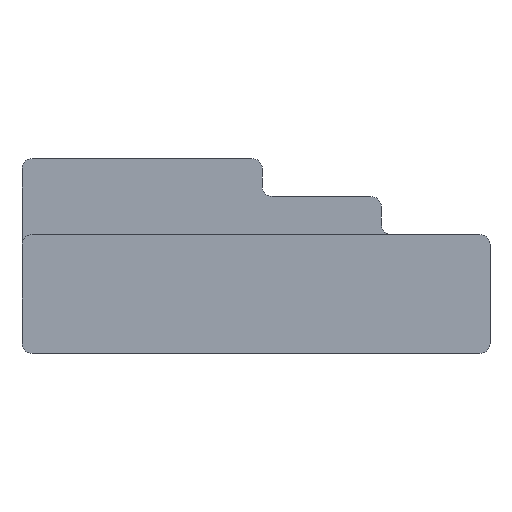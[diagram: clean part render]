
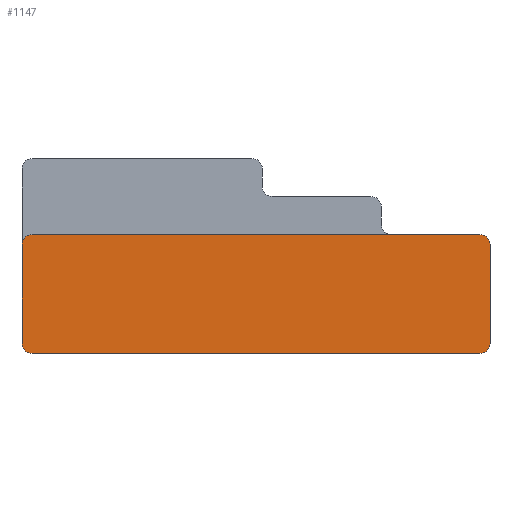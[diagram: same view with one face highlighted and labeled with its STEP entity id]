
A CAD part, front view. The second image highlights one B-rep face of the part: STEP entity #1147.
In plain terms, the highlighted planar face has unit normal (0, -1, 0).
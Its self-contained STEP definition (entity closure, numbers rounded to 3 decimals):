
#210=CARTESIAN_POINT('',(-10.9,-11.6,5.3));
#211=DIRECTION('',(0.,-1.,0.));
#212=DIRECTION('',(0.,0.,1.));
#213=AXIS2_PLACEMENT_3D('',#210,#211,#212);
#215=CARTESIAN_POINT('',(10.9,-11.6,5.3));
#216=DIRECTION('',(0.,-1.,0.));
#217=DIRECTION('',(1.,0.,0.));
#218=AXIS2_PLACEMENT_3D('',#215,#216,#217);
#220=CARTESIAN_POINT('',(10.9,-11.6,0.5));
#221=DIRECTION('',(0.,-1.,0.));
#222=DIRECTION('',(0.,0.,-1.));
#223=AXIS2_PLACEMENT_3D('',#220,#221,#222);
#225=CARTESIAN_POINT('',(-10.9,-11.6,0.5));
#226=DIRECTION('',(0.,-1.,0.));
#227=DIRECTION('',(-1.,0.,0.));
#228=AXIS2_PLACEMENT_3D('',#225,#226,#227);
#230=DIRECTION('',(0.,0.,1.));
#231=VECTOR('',#230,4.8);
#232=CARTESIAN_POINT('',(-11.4,-11.6,0.5));
#233=LINE('',#232,#231);
#318=DIRECTION('',(1.,0.,0.));
#319=VECTOR('',#318,21.8);
#320=CARTESIAN_POINT('',(-10.9,-11.6,5.8));
#321=LINE('',#320,#319);
#510=DIRECTION('',(1.,0.,0.));
#511=VECTOR('',#510,21.8);
#512=CARTESIAN_POINT('',(-10.9,-11.6,0.));
#513=LINE('',#512,#511);
#580=DIRECTION('',(0.,0.,1.));
#581=VECTOR('',#580,4.8);
#582=CARTESIAN_POINT('',(11.4,-11.6,0.5));
#583=LINE('',#582,#581);
#744=CARTESIAN_POINT('',(-10.9,-11.6,5.8));
#745=CARTESIAN_POINT('',(-11.4,-11.6,5.3));
#746=VERTEX_POINT('',#744);
#747=VERTEX_POINT('',#745);
#772=CARTESIAN_POINT('',(11.4,-11.6,5.3));
#773=VERTEX_POINT('',#772);
#774=CARTESIAN_POINT('',(10.9,-11.6,5.8));
#775=VERTEX_POINT('',#774);
#776=CARTESIAN_POINT('',(10.9,-11.6,0.));
#777=CARTESIAN_POINT('',(11.4,-11.6,0.5));
#778=VERTEX_POINT('',#776);
#779=VERTEX_POINT('',#777);
#788=CARTESIAN_POINT('',(-11.4,-11.6,0.5));
#789=VERTEX_POINT('',#788);
#790=CARTESIAN_POINT('',(-10.9,-11.6,0.));
#791=VERTEX_POINT('',#790);
#1125=CARTESIAN_POINT('',(-11.4,-11.6,0.));
#1126=DIRECTION('',(0.,-1.,0.));
#1127=DIRECTION('',(1.,0.,0.));
#1128=AXIS2_PLACEMENT_3D('',#1125,#1126,#1127);
#1129=PLANE('',#1128);
#1131=ORIENTED_EDGE('',*,*,#1130,.F.);
#1133=ORIENTED_EDGE('',*,*,#1132,.T.);
#1135=ORIENTED_EDGE('',*,*,#1134,.F.);
#1137=ORIENTED_EDGE('',*,*,#1136,.F.);
#1138=ORIENTED_EDGE('',*,*,#1115,.F.);
#1140=ORIENTED_EDGE('',*,*,#1139,.F.);
#1142=ORIENTED_EDGE('',*,*,#1141,.F.);
#1144=ORIENTED_EDGE('',*,*,#1143,.T.);
#1145=EDGE_LOOP('',(#1131,#1133,#1135,#1137,#1138,#1140,#1142,#1144));
#1146=FACE_OUTER_BOUND('',#1145,.F.);
#1147=ADVANCED_FACE('',(#1146),#1129,.T.);
#214=CIRCLE('',#213,0.5);
#219=CIRCLE('',#218,0.5);
#224=CIRCLE('',#223,0.5);
#229=CIRCLE('',#228,0.5);
#1115=EDGE_CURVE('',#778,#779,#224,.T.);
#1130=EDGE_CURVE('',#746,#747,#214,.T.);
#1132=EDGE_CURVE('',#746,#775,#321,.T.);
#1134=EDGE_CURVE('',#773,#775,#219,.T.);
#1136=EDGE_CURVE('',#779,#773,#583,.T.);
#1139=EDGE_CURVE('',#791,#778,#513,.T.);
#1141=EDGE_CURVE('',#789,#791,#229,.T.);
#1143=EDGE_CURVE('',#789,#747,#233,.T.);
